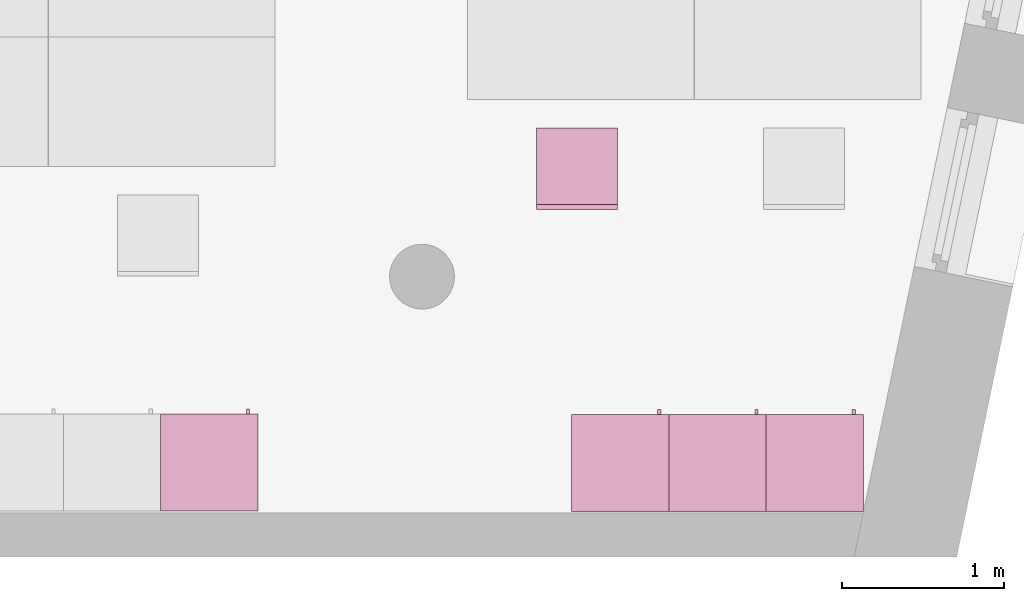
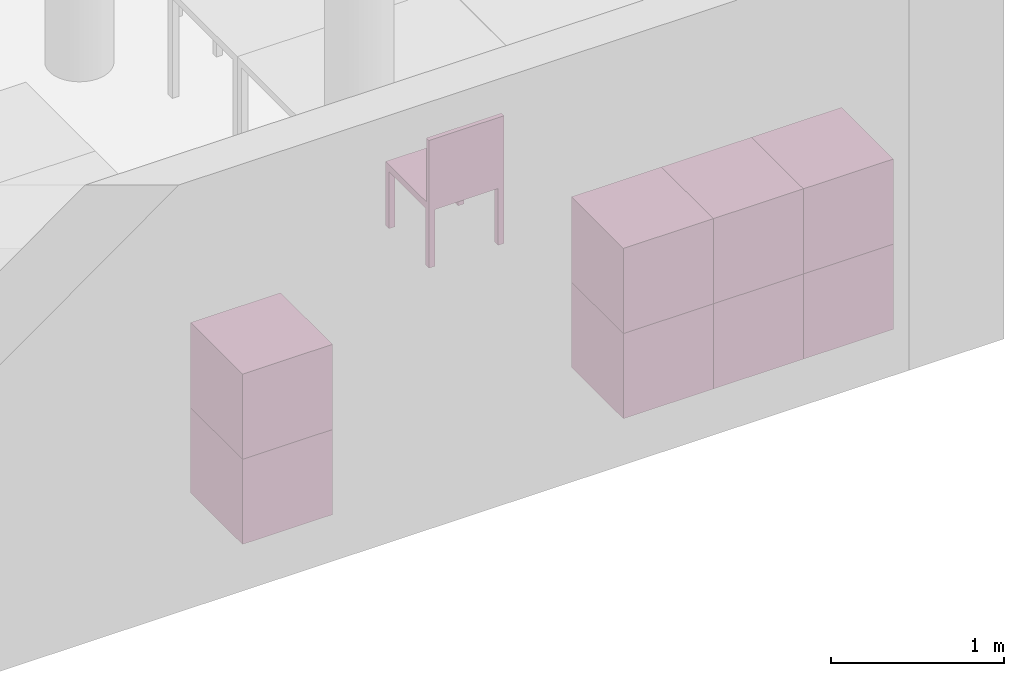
"""IFC4 building model written with IfcOpenShell, lengths in metres."""

from ifc_helpers import new_model, entity, si_unit, converted_unit, derived_unit, frame, origin, place, context, subcontext, project, spatial, faceted_brep, element, save


model = new_model("IFC4")

# Units and contexts
model_context = context("Model", 3, precision=1e-05, world=origin())
body_context = subcontext(model_context, "Body", "Model", "MODEL_VIEW")
ifc_project = project(units=[si_unit("LENGTHUNIT", "METRE"), si_unit("AREAUNIT", "SQUARE_METRE"), si_unit("VOLUMEUNIT", "CUBIC_METRE"), si_unit("MASSUNIT", "GRAM", prefix="KILO"), converted_unit("PLANEANGLEUNIT", "DEGREE", entity("IfcPlaneAngleMeasure", 0.0174532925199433), si_unit("PLANEANGLEUNIT", "RADIAN"), dimensions=[0, 0, 0, 0, 0, 0, 0]), derived_unit("THERMALTRANSMITTANCEUNIT", [(si_unit("POWERUNIT", "WATT"), 1), (si_unit("THERMODYNAMICTEMPERATUREUNIT", "KELVIN"), -1), (si_unit("LENGTHUNIT", "METRE"), -2)]), derived_unit("VOLUMETRICFLOWRATEUNIT", [(si_unit("LENGTHUNIT", "METRE"), 3), (converted_unit("TIMEUNIT", "hour", entity("IfcTimeMeasure", 3600.0), si_unit("TIMEUNIT", "SECOND"), dimensions=[0, 0, 1, 0, 0, 0, 0]), -1), (si_unit("LENGTHUNIT", "METRE"), -1)])], contexts=[model_context])

# Building, storeys
building_placement = place(None, origin())
building = spatial("IfcBuilding", under=ifc_project, at=building_placement, Name="HABITATGE PLURIFAMILIAR", CompositionType="ELEMENT")
storey_1_placement = place(building_placement, frame((0.0, 0.0, 18.29)))
storey_1 = spatial("IfcBuildingStorey", under=building, at=storey_1_placement, Name="PLANTA CINQUENA", CompositionType="ELEMENT", Elevation=18.29)
storey_2_placement = place(storey_1_placement, frame((0.0, 0.0, 15.28)))
storey_2 = spatial("IfcBuildingStorey", under=storey_1, at=storey_2_placement, Name="NOU", CompositionType="PARTIAL")

# Furniture
furniture_1_placement = place(storey_2_placement, frame((419.379266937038, 13.1230771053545, -15.2800000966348)))
element("IfcFurniture", 1, at=furniture_1_placement, inside=storey_2, Name="Armai 60x60x60_P5", context=body_context, shape_type="Brep", body=[
    faceted_brep([(0.600000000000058, 0.6, 0.02), (0.0, 0.6, 0.02), (0.0, 0.6, 0.0), (0.600000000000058, 0.6, 0.0), (0.0, 0.0, 0.02), (0.0, 0.0, 0.0), (0.600000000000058, 0.0, 0.02), (0.600000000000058, 0.0, 0.0)], [[[0, 1, 2, 3]], [[1, 4, 5, 2]], [[4, 6, 7, 5]], [[6, 0, 3, 7]], [[0, 6, 4, 1]], [[3, 2, 5, 7]]], orient=[[False], [False], [False], [False], [False], [False]]),
    faceted_brep([(0.02, 0.0, 0.58), (0.02, 0.0, 0.02), (0.02, 0.0200000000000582, 0.02), (0.02, 0.0200000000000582, 0.58), (0.58, 0.0, 0.02), (0.58, 0.0200000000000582, 0.02), (0.58, 0.0, 0.58), (0.58, 0.0200000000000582, 0.58)], [[[0, 1, 2, 3]], [[1, 4, 5, 2]], [[4, 6, 7, 5]], [[6, 0, 3, 7]], [[0, 6, 4, 1]], [[3, 2, 5, 7]]], orient=[[False], [False], [False], [False], [False], [False]]),
    faceted_brep([(0.58, 0.6, 0.58), (0.58, 0.6, 0.02), (0.6, 0.6, 0.02), (0.6, 0.6, 0.58), (0.58, 0.0, 0.02), (0.6, 0.0, 0.02), (0.58, 0.0, 0.58), (0.6, 0.0, 0.58)], [[[0, 1, 2, 3]], [[1, 4, 5, 2]], [[4, 6, 7, 5]], [[6, 0, 3, 7]], [[0, 6, 4, 1]], [[3, 2, 5, 7]]], orient=[[False], [False], [False], [False], [False], [False]]),
    faceted_brep([(0.600000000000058, 0.58, 0.58), (0.600000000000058, 0.58, 0.02), (0.600000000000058, 0.6, 0.02), (0.600000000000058, 0.6, 0.58), (0.580000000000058, 0.58, 0.02), (0.580000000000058, 0.6, 0.02), (0.580000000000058, 0.58, 0.58), (0.580000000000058, 0.6, 0.58)], [[[0, 1, 2, 3]], [[1, 4, 5, 2]], [[4, 6, 7, 5]], [[6, 0, 3, 7]], [[0, 6, 4, 1]], [[3, 2, 5, 7]]], orient=[[False], [False], [False], [False], [False], [False]]),
    faceted_brep([(0.0, 0.6, 0.58), (0.0, 0.6, 0.02), (0.0200000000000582, 0.6, 0.02), (0.0200000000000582, 0.6, 0.58), (0.0, 0.0, 0.02), (0.0200000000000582, 0.0, 0.02), (0.0, 0.0, 0.58), (0.0200000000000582, 0.0, 0.58)], [[[0, 1, 2, 3]], [[1, 4, 5, 2]], [[4, 6, 7, 5]], [[6, 0, 3, 7]], [[0, 6, 4, 1]], [[3, 2, 5, 7]]], orient=[[False], [False], [False], [False], [False], [False]]),
    faceted_brep([(0.6, 0.600000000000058, 0.6), (0.0, 0.600000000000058, 0.6), (0.0, 0.600000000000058, 0.58), (0.6, 0.600000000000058, 0.58), (0.0, 0.0, 0.6), (0.0, 0.0, 0.58), (0.6, 0.0, 0.6), (0.6, 0.0, 0.58)], [[[0, 1, 2, 3]], [[1, 4, 5, 2]], [[4, 6, 7, 5]], [[6, 0, 3, 7]], [[0, 6, 4, 1]], [[3, 2, 5, 7]]], orient=[[False], [False], [False], [False], [False], [False]]),
    faceted_brep([(0.02, 0.580000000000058, 0.58), (0.02, 0.580000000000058, 0.02), (0.02, 0.600000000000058, 0.02), (0.02, 0.600000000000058, 0.58), (0.580000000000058, 0.580000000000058, 0.02), (0.580000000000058, 0.600000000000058, 0.02), (0.580000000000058, 0.580000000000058, 0.58), (0.580000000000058, 0.600000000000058, 0.58)], [[[0, 1, 2, 3]], [[1, 4, 5, 2]], [[4, 6, 7, 5]], [[6, 0, 3, 7]], [[0, 6, 4, 1]], [[3, 2, 5, 7]]], orient=[[False], [False], [False], [False], [False], [False]]),
    faceted_brep([(0.53, 0.600000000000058, 0.358064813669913), (0.53, 0.600000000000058, 0.258064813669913), (0.53, 0.630000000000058, 0.258064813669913), (0.53, 0.630000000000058, 0.358064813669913), (0.55, 0.600000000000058, 0.258064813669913), (0.55, 0.630000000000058, 0.258064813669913), (0.55, 0.600000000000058, 0.358064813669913), (0.55, 0.630000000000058, 0.358064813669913)], [[[0, 1, 2, 3]], [[1, 4, 5, 2]], [[4, 6, 7, 5]], [[6, 0, 3, 7]], [[0, 6, 4, 1]], [[3, 2, 5, 7]]], orient=[[False], [False], [False], [False], [False], [False]]),
])
furniture_2_placement = place(storey_2_placement, frame((422.515270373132, 13.1194598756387, -15.2800000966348)))
element("IfcFurniture", 2, at=furniture_2_placement, inside=storey_2, Name="Armai 60x60x60_P5", context=body_context, shape_type="Brep", body=[
    faceted_brep([(0.600000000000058, 0.6, 0.02), (0.0, 0.6, 0.02), (0.0, 0.6, 0.0), (0.600000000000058, 0.6, 0.0), (0.0, 0.0, 0.02), (0.0, 0.0, 0.0), (0.600000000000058, 0.0, 0.02), (0.600000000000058, 0.0, 0.0)], [[[0, 1, 2, 3]], [[1, 4, 5, 2]], [[4, 6, 7, 5]], [[6, 0, 3, 7]], [[0, 6, 4, 1]], [[3, 2, 5, 7]]], orient=[[False], [False], [False], [False], [False], [False]]),
    faceted_brep([(0.02, 0.0, 0.58), (0.02, 0.0, 0.02), (0.02, 0.0200000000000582, 0.02), (0.02, 0.0200000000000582, 0.58), (0.58, 0.0, 0.02), (0.58, 0.0200000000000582, 0.02), (0.58, 0.0, 0.58), (0.58, 0.0200000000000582, 0.58)], [[[0, 1, 2, 3]], [[1, 4, 5, 2]], [[4, 6, 7, 5]], [[6, 0, 3, 7]], [[0, 6, 4, 1]], [[3, 2, 5, 7]]], orient=[[False], [False], [False], [False], [False], [False]]),
    faceted_brep([(0.58, 0.6, 0.58), (0.58, 0.6, 0.02), (0.6, 0.6, 0.02), (0.6, 0.6, 0.58), (0.58, 0.0, 0.02), (0.6, 0.0, 0.02), (0.58, 0.0, 0.58), (0.6, 0.0, 0.58)], [[[0, 1, 2, 3]], [[1, 4, 5, 2]], [[4, 6, 7, 5]], [[6, 0, 3, 7]], [[0, 6, 4, 1]], [[3, 2, 5, 7]]], orient=[[False], [False], [False], [False], [False], [False]]),
    faceted_brep([(0.600000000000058, 0.58, 0.58), (0.600000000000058, 0.58, 0.02), (0.600000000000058, 0.6, 0.02), (0.600000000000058, 0.6, 0.58), (0.580000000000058, 0.58, 0.02), (0.580000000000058, 0.6, 0.02), (0.580000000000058, 0.58, 0.58), (0.580000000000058, 0.6, 0.58)], [[[0, 1, 2, 3]], [[1, 4, 5, 2]], [[4, 6, 7, 5]], [[6, 0, 3, 7]], [[0, 6, 4, 1]], [[3, 2, 5, 7]]], orient=[[False], [False], [False], [False], [False], [False]]),
    faceted_brep([(0.0, 0.6, 0.58), (0.0, 0.6, 0.02), (0.0200000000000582, 0.6, 0.02), (0.0200000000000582, 0.6, 0.58), (0.0, 0.0, 0.02), (0.0200000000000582, 0.0, 0.02), (0.0, 0.0, 0.58), (0.0200000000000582, 0.0, 0.58)], [[[0, 1, 2, 3]], [[1, 4, 5, 2]], [[4, 6, 7, 5]], [[6, 0, 3, 7]], [[0, 6, 4, 1]], [[3, 2, 5, 7]]], orient=[[False], [False], [False], [False], [False], [False]]),
    faceted_brep([(0.6, 0.600000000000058, 0.6), (0.0, 0.600000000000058, 0.6), (0.0, 0.600000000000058, 0.58), (0.6, 0.600000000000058, 0.58), (0.0, 0.0, 0.6), (0.0, 0.0, 0.58), (0.6, 0.0, 0.6), (0.6, 0.0, 0.58)], [[[0, 1, 2, 3]], [[1, 4, 5, 2]], [[4, 6, 7, 5]], [[6, 0, 3, 7]], [[0, 6, 4, 1]], [[3, 2, 5, 7]]], orient=[[False], [False], [False], [False], [False], [False]]),
    faceted_brep([(0.02, 0.580000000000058, 0.58), (0.02, 0.580000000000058, 0.02), (0.02, 0.600000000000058, 0.02), (0.02, 0.600000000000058, 0.58), (0.580000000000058, 0.580000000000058, 0.02), (0.580000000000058, 0.600000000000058, 0.02), (0.580000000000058, 0.580000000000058, 0.58), (0.580000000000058, 0.600000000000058, 0.58)], [[[0, 1, 2, 3]], [[1, 4, 5, 2]], [[4, 6, 7, 5]], [[6, 0, 3, 7]], [[0, 6, 4, 1]], [[3, 2, 5, 7]]], orient=[[False], [False], [False], [False], [False], [False]]),
    faceted_brep([(0.53, 0.600000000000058, 0.358064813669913), (0.53, 0.600000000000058, 0.258064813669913), (0.53, 0.630000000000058, 0.258064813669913), (0.53, 0.630000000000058, 0.358064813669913), (0.55, 0.600000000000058, 0.258064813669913), (0.55, 0.630000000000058, 0.258064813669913), (0.55, 0.600000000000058, 0.358064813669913), (0.55, 0.630000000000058, 0.358064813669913)], [[[0, 1, 2, 3]], [[1, 4, 5, 2]], [[4, 6, 7, 5]], [[6, 0, 3, 7]], [[0, 6, 4, 1]], [[3, 2, 5, 7]]], orient=[[False], [False], [False], [False], [False], [False]]),
])
furniture_3_placement = place(storey_2_placement, frame((421.915270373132, 13.1194598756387, -15.2800000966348)))
element("IfcFurniture", 3, at=furniture_3_placement, inside=storey_2, Name="Armai 60x60x60_P5", context=body_context, shape_type="Brep", body=[
    faceted_brep([(0.600000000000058, 0.6, 0.02), (0.0, 0.6, 0.02), (0.0, 0.6, 0.0), (0.600000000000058, 0.6, 0.0), (0.0, 0.0, 0.02), (0.0, 0.0, 0.0), (0.600000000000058, 0.0, 0.02), (0.600000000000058, 0.0, 0.0)], [[[0, 1, 2, 3]], [[1, 4, 5, 2]], [[4, 6, 7, 5]], [[6, 0, 3, 7]], [[0, 6, 4, 1]], [[3, 2, 5, 7]]], orient=[[False], [False], [False], [False], [False], [False]]),
    faceted_brep([(0.02, 0.0, 0.58), (0.02, 0.0, 0.02), (0.02, 0.0200000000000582, 0.02), (0.02, 0.0200000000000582, 0.58), (0.58, 0.0, 0.02), (0.58, 0.0200000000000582, 0.02), (0.58, 0.0, 0.58), (0.58, 0.0200000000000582, 0.58)], [[[0, 1, 2, 3]], [[1, 4, 5, 2]], [[4, 6, 7, 5]], [[6, 0, 3, 7]], [[0, 6, 4, 1]], [[3, 2, 5, 7]]], orient=[[False], [False], [False], [False], [False], [False]]),
    faceted_brep([(0.58, 0.6, 0.58), (0.58, 0.6, 0.02), (0.6, 0.6, 0.02), (0.6, 0.6, 0.58), (0.58, 0.0, 0.02), (0.6, 0.0, 0.02), (0.58, 0.0, 0.58), (0.6, 0.0, 0.58)], [[[0, 1, 2, 3]], [[1, 4, 5, 2]], [[4, 6, 7, 5]], [[6, 0, 3, 7]], [[0, 6, 4, 1]], [[3, 2, 5, 7]]], orient=[[False], [False], [False], [False], [False], [False]]),
    faceted_brep([(0.600000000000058, 0.58, 0.58), (0.600000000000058, 0.58, 0.02), (0.600000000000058, 0.6, 0.02), (0.600000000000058, 0.6, 0.58), (0.580000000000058, 0.58, 0.02), (0.580000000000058, 0.6, 0.02), (0.580000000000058, 0.58, 0.58), (0.580000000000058, 0.6, 0.58)], [[[0, 1, 2, 3]], [[1, 4, 5, 2]], [[4, 6, 7, 5]], [[6, 0, 3, 7]], [[0, 6, 4, 1]], [[3, 2, 5, 7]]], orient=[[False], [False], [False], [False], [False], [False]]),
    faceted_brep([(0.0, 0.6, 0.58), (0.0, 0.6, 0.02), (0.0200000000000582, 0.6, 0.02), (0.0200000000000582, 0.6, 0.58), (0.0, 0.0, 0.02), (0.0200000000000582, 0.0, 0.02), (0.0, 0.0, 0.58), (0.0200000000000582, 0.0, 0.58)], [[[0, 1, 2, 3]], [[1, 4, 5, 2]], [[4, 6, 7, 5]], [[6, 0, 3, 7]], [[0, 6, 4, 1]], [[3, 2, 5, 7]]], orient=[[False], [False], [False], [False], [False], [False]]),
    faceted_brep([(0.6, 0.600000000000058, 0.6), (0.0, 0.600000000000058, 0.6), (0.0, 0.600000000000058, 0.58), (0.6, 0.600000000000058, 0.58), (0.0, 0.0, 0.6), (0.0, 0.0, 0.58), (0.6, 0.0, 0.6), (0.6, 0.0, 0.58)], [[[0, 1, 2, 3]], [[1, 4, 5, 2]], [[4, 6, 7, 5]], [[6, 0, 3, 7]], [[0, 6, 4, 1]], [[3, 2, 5, 7]]], orient=[[False], [False], [False], [False], [False], [False]]),
    faceted_brep([(0.02, 0.580000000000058, 0.58), (0.02, 0.580000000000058, 0.02), (0.02, 0.600000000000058, 0.02), (0.02, 0.600000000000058, 0.58), (0.580000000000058, 0.580000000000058, 0.02), (0.580000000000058, 0.600000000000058, 0.02), (0.580000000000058, 0.580000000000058, 0.58), (0.580000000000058, 0.600000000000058, 0.58)], [[[0, 1, 2, 3]], [[1, 4, 5, 2]], [[4, 6, 7, 5]], [[6, 0, 3, 7]], [[0, 6, 4, 1]], [[3, 2, 5, 7]]], orient=[[False], [False], [False], [False], [False], [False]]),
    faceted_brep([(0.53, 0.600000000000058, 0.358064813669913), (0.53, 0.600000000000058, 0.258064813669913), (0.53, 0.630000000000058, 0.258064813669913), (0.53, 0.630000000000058, 0.358064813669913), (0.55, 0.600000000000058, 0.258064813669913), (0.55, 0.630000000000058, 0.258064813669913), (0.55, 0.600000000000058, 0.358064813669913), (0.55, 0.630000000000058, 0.358064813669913)], [[[0, 1, 2, 3]], [[1, 4, 5, 2]], [[4, 6, 7, 5]], [[6, 0, 3, 7]], [[0, 6, 4, 1]], [[3, 2, 5, 7]]], orient=[[False], [False], [False], [False], [False], [False]]),
])
furniture_4_placement = place(storey_2_placement, frame((423.115270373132, 13.1194598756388, -15.2800000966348)))
element("IfcFurniture", 4, at=furniture_4_placement, inside=storey_2, Name="Armai 60x60x60_P5", context=body_context, shape_type="Brep", body=[
    faceted_brep([(0.600000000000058, 0.6, 0.02), (0.0, 0.6, 0.02), (0.0, 0.6, 0.0), (0.600000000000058, 0.6, 0.0), (0.0, 0.0, 0.02), (0.0, 0.0, 0.0), (0.600000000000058, 0.0, 0.02), (0.600000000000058, 0.0, 0.0)], [[[0, 1, 2, 3]], [[1, 4, 5, 2]], [[4, 6, 7, 5]], [[6, 0, 3, 7]], [[0, 6, 4, 1]], [[3, 2, 5, 7]]], orient=[[False], [False], [False], [False], [False], [False]]),
    faceted_brep([(0.02, 0.0, 0.58), (0.02, 0.0, 0.02), (0.02, 0.0200000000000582, 0.02), (0.02, 0.0200000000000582, 0.58), (0.58, 0.0, 0.02), (0.58, 0.0200000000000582, 0.02), (0.58, 0.0, 0.58), (0.58, 0.0200000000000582, 0.58)], [[[0, 1, 2, 3]], [[1, 4, 5, 2]], [[4, 6, 7, 5]], [[6, 0, 3, 7]], [[0, 6, 4, 1]], [[3, 2, 5, 7]]], orient=[[False], [False], [False], [False], [False], [False]]),
    faceted_brep([(0.58, 0.6, 0.58), (0.58, 0.6, 0.02), (0.6, 0.6, 0.02), (0.6, 0.6, 0.58), (0.58, 0.0, 0.02), (0.6, 0.0, 0.02), (0.58, 0.0, 0.58), (0.6, 0.0, 0.58)], [[[0, 1, 2, 3]], [[1, 4, 5, 2]], [[4, 6, 7, 5]], [[6, 0, 3, 7]], [[0, 6, 4, 1]], [[3, 2, 5, 7]]], orient=[[False], [False], [False], [False], [False], [False]]),
    faceted_brep([(0.600000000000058, 0.58, 0.58), (0.600000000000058, 0.58, 0.02), (0.600000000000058, 0.6, 0.02), (0.600000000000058, 0.6, 0.58), (0.580000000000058, 0.58, 0.02), (0.580000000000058, 0.6, 0.02), (0.580000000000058, 0.58, 0.58), (0.580000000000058, 0.6, 0.58)], [[[0, 1, 2, 3]], [[1, 4, 5, 2]], [[4, 6, 7, 5]], [[6, 0, 3, 7]], [[0, 6, 4, 1]], [[3, 2, 5, 7]]], orient=[[False], [False], [False], [False], [False], [False]]),
    faceted_brep([(0.0, 0.6, 0.58), (0.0, 0.6, 0.02), (0.0200000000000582, 0.6, 0.02), (0.0200000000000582, 0.6, 0.58), (0.0, 0.0, 0.02), (0.0200000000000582, 0.0, 0.02), (0.0, 0.0, 0.58), (0.0200000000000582, 0.0, 0.58)], [[[0, 1, 2, 3]], [[1, 4, 5, 2]], [[4, 6, 7, 5]], [[6, 0, 3, 7]], [[0, 6, 4, 1]], [[3, 2, 5, 7]]], orient=[[False], [False], [False], [False], [False], [False]]),
    faceted_brep([(0.6, 0.600000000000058, 0.6), (0.0, 0.600000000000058, 0.6), (0.0, 0.600000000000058, 0.58), (0.6, 0.600000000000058, 0.58), (0.0, 0.0, 0.6), (0.0, 0.0, 0.58), (0.6, 0.0, 0.6), (0.6, 0.0, 0.58)], [[[0, 1, 2, 3]], [[1, 4, 5, 2]], [[4, 6, 7, 5]], [[6, 0, 3, 7]], [[0, 6, 4, 1]], [[3, 2, 5, 7]]], orient=[[False], [False], [False], [False], [False], [False]]),
    faceted_brep([(0.02, 0.580000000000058, 0.58), (0.02, 0.580000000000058, 0.02), (0.02, 0.600000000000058, 0.02), (0.02, 0.600000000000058, 0.58), (0.580000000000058, 0.580000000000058, 0.02), (0.580000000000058, 0.600000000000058, 0.02), (0.580000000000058, 0.580000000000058, 0.58), (0.580000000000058, 0.600000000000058, 0.58)], [[[0, 1, 2, 3]], [[1, 4, 5, 2]], [[4, 6, 7, 5]], [[6, 0, 3, 7]], [[0, 6, 4, 1]], [[3, 2, 5, 7]]], orient=[[False], [False], [False], [False], [False], [False]]),
    faceted_brep([(0.53, 0.600000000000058, 0.358064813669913), (0.53, 0.600000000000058, 0.258064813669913), (0.53, 0.630000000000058, 0.258064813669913), (0.53, 0.630000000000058, 0.358064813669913), (0.55, 0.600000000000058, 0.258064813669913), (0.55, 0.630000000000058, 0.258064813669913), (0.55, 0.600000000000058, 0.358064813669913), (0.55, 0.630000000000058, 0.358064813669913)], [[[0, 1, 2, 3]], [[1, 4, 5, 2]], [[4, 6, 7, 5]], [[6, 0, 3, 7]], [[0, 6, 4, 1]], [[3, 2, 5, 7]]], orient=[[False], [False], [False], [False], [False], [False]]),
])
furniture_5_placement = place(storey_2_placement, frame((419.379266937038, 13.1230771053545, -14.6800000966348)))
element("IfcFurniture", 5, at=furniture_5_placement, inside=storey_2, Name="Armai 60x60x60_P5", context=body_context, shape_type="Brep", body=[
    faceted_brep([(0.600000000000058, 0.6, 0.02), (0.0, 0.6, 0.02), (0.0, 0.6, 0.0), (0.600000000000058, 0.6, 0.0), (0.0, 0.0, 0.02), (0.0, 0.0, 0.0), (0.600000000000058, 0.0, 0.02), (0.600000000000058, 0.0, 0.0)], [[[0, 1, 2, 3]], [[1, 4, 5, 2]], [[4, 6, 7, 5]], [[6, 0, 3, 7]], [[0, 6, 4, 1]], [[3, 2, 5, 7]]], orient=[[False], [False], [False], [False], [False], [False]]),
    faceted_brep([(0.02, 0.0, 0.58), (0.02, 0.0, 0.02), (0.02, 0.0200000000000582, 0.02), (0.02, 0.0200000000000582, 0.58), (0.58, 0.0, 0.02), (0.58, 0.0200000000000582, 0.02), (0.58, 0.0, 0.58), (0.58, 0.0200000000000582, 0.58)], [[[0, 1, 2, 3]], [[1, 4, 5, 2]], [[4, 6, 7, 5]], [[6, 0, 3, 7]], [[0, 6, 4, 1]], [[3, 2, 5, 7]]], orient=[[False], [False], [False], [False], [False], [False]]),
    faceted_brep([(0.58, 0.6, 0.58), (0.58, 0.6, 0.02), (0.6, 0.6, 0.02), (0.6, 0.6, 0.58), (0.58, 0.0, 0.02), (0.6, 0.0, 0.02), (0.58, 0.0, 0.58), (0.6, 0.0, 0.58)], [[[0, 1, 2, 3]], [[1, 4, 5, 2]], [[4, 6, 7, 5]], [[6, 0, 3, 7]], [[0, 6, 4, 1]], [[3, 2, 5, 7]]], orient=[[False], [False], [False], [False], [False], [False]]),
    faceted_brep([(0.600000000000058, 0.58, 0.58), (0.600000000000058, 0.58, 0.02), (0.600000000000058, 0.6, 0.02), (0.600000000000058, 0.6, 0.58), (0.580000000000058, 0.58, 0.02), (0.580000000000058, 0.6, 0.02), (0.580000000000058, 0.58, 0.58), (0.580000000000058, 0.6, 0.58)], [[[0, 1, 2, 3]], [[1, 4, 5, 2]], [[4, 6, 7, 5]], [[6, 0, 3, 7]], [[0, 6, 4, 1]], [[3, 2, 5, 7]]], orient=[[False], [False], [False], [False], [False], [False]]),
    faceted_brep([(0.0, 0.6, 0.58), (0.0, 0.6, 0.02), (0.0200000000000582, 0.6, 0.02), (0.0200000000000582, 0.6, 0.58), (0.0, 0.0, 0.02), (0.0200000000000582, 0.0, 0.02), (0.0, 0.0, 0.58), (0.0200000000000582, 0.0, 0.58)], [[[0, 1, 2, 3]], [[1, 4, 5, 2]], [[4, 6, 7, 5]], [[6, 0, 3, 7]], [[0, 6, 4, 1]], [[3, 2, 5, 7]]], orient=[[False], [False], [False], [False], [False], [False]]),
    faceted_brep([(0.6, 0.600000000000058, 0.6), (0.0, 0.600000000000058, 0.6), (0.0, 0.600000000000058, 0.58), (0.6, 0.600000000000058, 0.58), (0.0, 0.0, 0.6), (0.0, 0.0, 0.58), (0.6, 0.0, 0.6), (0.6, 0.0, 0.58)], [[[0, 1, 2, 3]], [[1, 4, 5, 2]], [[4, 6, 7, 5]], [[6, 0, 3, 7]], [[0, 6, 4, 1]], [[3, 2, 5, 7]]], orient=[[False], [False], [False], [False], [False], [False]]),
    faceted_brep([(0.02, 0.580000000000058, 0.58), (0.02, 0.580000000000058, 0.02), (0.02, 0.600000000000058, 0.02), (0.02, 0.600000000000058, 0.58), (0.580000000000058, 0.580000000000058, 0.02), (0.580000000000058, 0.600000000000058, 0.02), (0.580000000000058, 0.580000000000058, 0.58), (0.580000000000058, 0.600000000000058, 0.58)], [[[0, 1, 2, 3]], [[1, 4, 5, 2]], [[4, 6, 7, 5]], [[6, 0, 3, 7]], [[0, 6, 4, 1]], [[3, 2, 5, 7]]], orient=[[False], [False], [False], [False], [False], [False]]),
    faceted_brep([(0.53, 0.600000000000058, 0.358064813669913), (0.53, 0.600000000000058, 0.258064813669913), (0.53, 0.630000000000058, 0.258064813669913), (0.53, 0.630000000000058, 0.358064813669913), (0.55, 0.600000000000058, 0.258064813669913), (0.55, 0.630000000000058, 0.258064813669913), (0.55, 0.600000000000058, 0.358064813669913), (0.55, 0.630000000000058, 0.358064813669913)], [[[0, 1, 2, 3]], [[1, 4, 5, 2]], [[4, 6, 7, 5]], [[6, 0, 3, 7]], [[0, 6, 4, 1]], [[3, 2, 5, 7]]], orient=[[False], [False], [False], [False], [False], [False]]),
])
furniture_6_placement = place(storey_2_placement, frame((422.515270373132, 13.1194598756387, -14.6800000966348)))
element("IfcFurniture", 6, at=furniture_6_placement, inside=storey_2, Name="Armai 60x60x60_P5", context=body_context, shape_type="Brep", body=[
    faceted_brep([(0.600000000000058, 0.6, 0.02), (0.0, 0.6, 0.02), (0.0, 0.6, 0.0), (0.600000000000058, 0.6, 0.0), (0.0, 0.0, 0.02), (0.0, 0.0, 0.0), (0.600000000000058, 0.0, 0.02), (0.600000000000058, 0.0, 0.0)], [[[0, 1, 2, 3]], [[1, 4, 5, 2]], [[4, 6, 7, 5]], [[6, 0, 3, 7]], [[0, 6, 4, 1]], [[3, 2, 5, 7]]], orient=[[False], [False], [False], [False], [False], [False]]),
    faceted_brep([(0.02, 0.0, 0.58), (0.02, 0.0, 0.02), (0.02, 0.0200000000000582, 0.02), (0.02, 0.0200000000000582, 0.58), (0.58, 0.0, 0.02), (0.58, 0.0200000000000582, 0.02), (0.58, 0.0, 0.58), (0.58, 0.0200000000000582, 0.58)], [[[0, 1, 2, 3]], [[1, 4, 5, 2]], [[4, 6, 7, 5]], [[6, 0, 3, 7]], [[0, 6, 4, 1]], [[3, 2, 5, 7]]], orient=[[False], [False], [False], [False], [False], [False]]),
    faceted_brep([(0.58, 0.6, 0.58), (0.58, 0.6, 0.02), (0.6, 0.6, 0.02), (0.6, 0.6, 0.58), (0.58, 0.0, 0.02), (0.6, 0.0, 0.02), (0.58, 0.0, 0.58), (0.6, 0.0, 0.58)], [[[0, 1, 2, 3]], [[1, 4, 5, 2]], [[4, 6, 7, 5]], [[6, 0, 3, 7]], [[0, 6, 4, 1]], [[3, 2, 5, 7]]], orient=[[False], [False], [False], [False], [False], [False]]),
    faceted_brep([(0.600000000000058, 0.58, 0.58), (0.600000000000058, 0.58, 0.02), (0.600000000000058, 0.6, 0.02), (0.600000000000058, 0.6, 0.58), (0.580000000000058, 0.58, 0.02), (0.580000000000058, 0.6, 0.02), (0.580000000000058, 0.58, 0.58), (0.580000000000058, 0.6, 0.58)], [[[0, 1, 2, 3]], [[1, 4, 5, 2]], [[4, 6, 7, 5]], [[6, 0, 3, 7]], [[0, 6, 4, 1]], [[3, 2, 5, 7]]], orient=[[False], [False], [False], [False], [False], [False]]),
    faceted_brep([(0.0, 0.6, 0.58), (0.0, 0.6, 0.02), (0.0200000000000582, 0.6, 0.02), (0.0200000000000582, 0.6, 0.58), (0.0, 0.0, 0.02), (0.0200000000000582, 0.0, 0.02), (0.0, 0.0, 0.58), (0.0200000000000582, 0.0, 0.58)], [[[0, 1, 2, 3]], [[1, 4, 5, 2]], [[4, 6, 7, 5]], [[6, 0, 3, 7]], [[0, 6, 4, 1]], [[3, 2, 5, 7]]], orient=[[False], [False], [False], [False], [False], [False]]),
    faceted_brep([(0.6, 0.600000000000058, 0.6), (0.0, 0.600000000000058, 0.6), (0.0, 0.600000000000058, 0.58), (0.6, 0.600000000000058, 0.58), (0.0, 0.0, 0.6), (0.0, 0.0, 0.58), (0.6, 0.0, 0.6), (0.6, 0.0, 0.58)], [[[0, 1, 2, 3]], [[1, 4, 5, 2]], [[4, 6, 7, 5]], [[6, 0, 3, 7]], [[0, 6, 4, 1]], [[3, 2, 5, 7]]], orient=[[False], [False], [False], [False], [False], [False]]),
    faceted_brep([(0.02, 0.580000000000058, 0.58), (0.02, 0.580000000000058, 0.02), (0.02, 0.600000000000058, 0.02), (0.02, 0.600000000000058, 0.58), (0.580000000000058, 0.580000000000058, 0.02), (0.580000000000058, 0.600000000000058, 0.02), (0.580000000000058, 0.580000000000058, 0.58), (0.580000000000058, 0.600000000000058, 0.58)], [[[0, 1, 2, 3]], [[1, 4, 5, 2]], [[4, 6, 7, 5]], [[6, 0, 3, 7]], [[0, 6, 4, 1]], [[3, 2, 5, 7]]], orient=[[False], [False], [False], [False], [False], [False]]),
    faceted_brep([(0.53, 0.600000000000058, 0.358064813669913), (0.53, 0.600000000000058, 0.258064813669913), (0.53, 0.630000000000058, 0.258064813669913), (0.53, 0.630000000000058, 0.358064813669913), (0.55, 0.600000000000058, 0.258064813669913), (0.55, 0.630000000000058, 0.258064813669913), (0.55, 0.600000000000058, 0.358064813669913), (0.55, 0.630000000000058, 0.358064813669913)], [[[0, 1, 2, 3]], [[1, 4, 5, 2]], [[4, 6, 7, 5]], [[6, 0, 3, 7]], [[0, 6, 4, 1]], [[3, 2, 5, 7]]], orient=[[False], [False], [False], [False], [False], [False]]),
])
furniture_7_placement = place(storey_2_placement, frame((421.915270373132, 13.1194598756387, -14.6800000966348)))
element("IfcFurniture", 7, at=furniture_7_placement, inside=storey_2, Name="Armai 60x60x60_P5", context=body_context, shape_type="Brep", body=[
    faceted_brep([(0.600000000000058, 0.6, 0.02), (0.0, 0.6, 0.02), (0.0, 0.6, 0.0), (0.600000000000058, 0.6, 0.0), (0.0, 0.0, 0.02), (0.0, 0.0, 0.0), (0.600000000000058, 0.0, 0.02), (0.600000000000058, 0.0, 0.0)], [[[0, 1, 2, 3]], [[1, 4, 5, 2]], [[4, 6, 7, 5]], [[6, 0, 3, 7]], [[0, 6, 4, 1]], [[3, 2, 5, 7]]], orient=[[False], [False], [False], [False], [False], [False]]),
    faceted_brep([(0.02, 0.0, 0.58), (0.02, 0.0, 0.02), (0.02, 0.0200000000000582, 0.02), (0.02, 0.0200000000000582, 0.58), (0.58, 0.0, 0.02), (0.58, 0.0200000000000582, 0.02), (0.58, 0.0, 0.58), (0.58, 0.0200000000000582, 0.58)], [[[0, 1, 2, 3]], [[1, 4, 5, 2]], [[4, 6, 7, 5]], [[6, 0, 3, 7]], [[0, 6, 4, 1]], [[3, 2, 5, 7]]], orient=[[False], [False], [False], [False], [False], [False]]),
    faceted_brep([(0.58, 0.6, 0.58), (0.58, 0.6, 0.02), (0.6, 0.6, 0.02), (0.6, 0.6, 0.58), (0.58, 0.0, 0.02), (0.6, 0.0, 0.02), (0.58, 0.0, 0.58), (0.6, 0.0, 0.58)], [[[0, 1, 2, 3]], [[1, 4, 5, 2]], [[4, 6, 7, 5]], [[6, 0, 3, 7]], [[0, 6, 4, 1]], [[3, 2, 5, 7]]], orient=[[False], [False], [False], [False], [False], [False]]),
    faceted_brep([(0.600000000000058, 0.58, 0.58), (0.600000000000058, 0.58, 0.02), (0.600000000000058, 0.6, 0.02), (0.600000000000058, 0.6, 0.58), (0.580000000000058, 0.58, 0.02), (0.580000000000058, 0.6, 0.02), (0.580000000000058, 0.58, 0.58), (0.580000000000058, 0.6, 0.58)], [[[0, 1, 2, 3]], [[1, 4, 5, 2]], [[4, 6, 7, 5]], [[6, 0, 3, 7]], [[0, 6, 4, 1]], [[3, 2, 5, 7]]], orient=[[False], [False], [False], [False], [False], [False]]),
    faceted_brep([(0.0, 0.6, 0.58), (0.0, 0.6, 0.02), (0.0200000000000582, 0.6, 0.02), (0.0200000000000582, 0.6, 0.58), (0.0, 0.0, 0.02), (0.0200000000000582, 0.0, 0.02), (0.0, 0.0, 0.58), (0.0200000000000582, 0.0, 0.58)], [[[0, 1, 2, 3]], [[1, 4, 5, 2]], [[4, 6, 7, 5]], [[6, 0, 3, 7]], [[0, 6, 4, 1]], [[3, 2, 5, 7]]], orient=[[False], [False], [False], [False], [False], [False]]),
    faceted_brep([(0.6, 0.600000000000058, 0.6), (0.0, 0.600000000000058, 0.6), (0.0, 0.600000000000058, 0.58), (0.6, 0.600000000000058, 0.58), (0.0, 0.0, 0.6), (0.0, 0.0, 0.58), (0.6, 0.0, 0.6), (0.6, 0.0, 0.58)], [[[0, 1, 2, 3]], [[1, 4, 5, 2]], [[4, 6, 7, 5]], [[6, 0, 3, 7]], [[0, 6, 4, 1]], [[3, 2, 5, 7]]], orient=[[False], [False], [False], [False], [False], [False]]),
    faceted_brep([(0.02, 0.580000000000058, 0.58), (0.02, 0.580000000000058, 0.02), (0.02, 0.600000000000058, 0.02), (0.02, 0.600000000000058, 0.58), (0.580000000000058, 0.580000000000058, 0.02), (0.580000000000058, 0.600000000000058, 0.02), (0.580000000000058, 0.580000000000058, 0.58), (0.580000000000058, 0.600000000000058, 0.58)], [[[0, 1, 2, 3]], [[1, 4, 5, 2]], [[4, 6, 7, 5]], [[6, 0, 3, 7]], [[0, 6, 4, 1]], [[3, 2, 5, 7]]], orient=[[False], [False], [False], [False], [False], [False]]),
    faceted_brep([(0.53, 0.600000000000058, 0.358064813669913), (0.53, 0.600000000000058, 0.258064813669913), (0.53, 0.630000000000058, 0.258064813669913), (0.53, 0.630000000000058, 0.358064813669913), (0.55, 0.600000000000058, 0.258064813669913), (0.55, 0.630000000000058, 0.258064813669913), (0.55, 0.600000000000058, 0.358064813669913), (0.55, 0.630000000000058, 0.358064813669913)], [[[0, 1, 2, 3]], [[1, 4, 5, 2]], [[4, 6, 7, 5]], [[6, 0, 3, 7]], [[0, 6, 4, 1]], [[3, 2, 5, 7]]], orient=[[False], [False], [False], [False], [False], [False]]),
])
furniture_8_placement = place(storey_2_placement, frame((423.115270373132, 13.1194598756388, -14.6800000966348)))
element("IfcFurniture", 8, at=furniture_8_placement, inside=storey_2, Name="Armai 60x60x60_P5", context=body_context, shape_type="Brep", body=[
    faceted_brep([(0.600000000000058, 0.6, 0.02), (0.0, 0.6, 0.02), (0.0, 0.6, 0.0), (0.600000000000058, 0.6, 0.0), (0.0, 0.0, 0.02), (0.0, 0.0, 0.0), (0.600000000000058, 0.0, 0.02), (0.600000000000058, 0.0, 0.0)], [[[0, 1, 2, 3]], [[1, 4, 5, 2]], [[4, 6, 7, 5]], [[6, 0, 3, 7]], [[0, 6, 4, 1]], [[3, 2, 5, 7]]], orient=[[False], [False], [False], [False], [False], [False]]),
    faceted_brep([(0.02, 0.0, 0.58), (0.02, 0.0, 0.02), (0.02, 0.0200000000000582, 0.02), (0.02, 0.0200000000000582, 0.58), (0.58, 0.0, 0.02), (0.58, 0.0200000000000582, 0.02), (0.58, 0.0, 0.58), (0.58, 0.0200000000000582, 0.58)], [[[0, 1, 2, 3]], [[1, 4, 5, 2]], [[4, 6, 7, 5]], [[6, 0, 3, 7]], [[0, 6, 4, 1]], [[3, 2, 5, 7]]], orient=[[False], [False], [False], [False], [False], [False]]),
    faceted_brep([(0.58, 0.6, 0.58), (0.58, 0.6, 0.02), (0.6, 0.6, 0.02), (0.6, 0.6, 0.58), (0.58, 0.0, 0.02), (0.6, 0.0, 0.02), (0.58, 0.0, 0.58), (0.6, 0.0, 0.58)], [[[0, 1, 2, 3]], [[1, 4, 5, 2]], [[4, 6, 7, 5]], [[6, 0, 3, 7]], [[0, 6, 4, 1]], [[3, 2, 5, 7]]], orient=[[False], [False], [False], [False], [False], [False]]),
    faceted_brep([(0.600000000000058, 0.58, 0.58), (0.600000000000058, 0.58, 0.02), (0.600000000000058, 0.6, 0.02), (0.600000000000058, 0.6, 0.58), (0.580000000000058, 0.58, 0.02), (0.580000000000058, 0.6, 0.02), (0.580000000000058, 0.58, 0.58), (0.580000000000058, 0.6, 0.58)], [[[0, 1, 2, 3]], [[1, 4, 5, 2]], [[4, 6, 7, 5]], [[6, 0, 3, 7]], [[0, 6, 4, 1]], [[3, 2, 5, 7]]], orient=[[False], [False], [False], [False], [False], [False]]),
    faceted_brep([(0.0, 0.6, 0.58), (0.0, 0.6, 0.02), (0.0200000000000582, 0.6, 0.02), (0.0200000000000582, 0.6, 0.58), (0.0, 0.0, 0.02), (0.0200000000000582, 0.0, 0.02), (0.0, 0.0, 0.58), (0.0200000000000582, 0.0, 0.58)], [[[0, 1, 2, 3]], [[1, 4, 5, 2]], [[4, 6, 7, 5]], [[6, 0, 3, 7]], [[0, 6, 4, 1]], [[3, 2, 5, 7]]], orient=[[False], [False], [False], [False], [False], [False]]),
    faceted_brep([(0.6, 0.600000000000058, 0.6), (0.0, 0.600000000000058, 0.6), (0.0, 0.600000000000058, 0.58), (0.6, 0.600000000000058, 0.58), (0.0, 0.0, 0.6), (0.0, 0.0, 0.58), (0.6, 0.0, 0.6), (0.6, 0.0, 0.58)], [[[0, 1, 2, 3]], [[1, 4, 5, 2]], [[4, 6, 7, 5]], [[6, 0, 3, 7]], [[0, 6, 4, 1]], [[3, 2, 5, 7]]], orient=[[False], [False], [False], [False], [False], [False]]),
    faceted_brep([(0.02, 0.580000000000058, 0.58), (0.02, 0.580000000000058, 0.02), (0.02, 0.600000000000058, 0.02), (0.02, 0.600000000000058, 0.58), (0.580000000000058, 0.580000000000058, 0.02), (0.580000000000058, 0.600000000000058, 0.02), (0.580000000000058, 0.580000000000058, 0.58), (0.580000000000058, 0.600000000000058, 0.58)], [[[0, 1, 2, 3]], [[1, 4, 5, 2]], [[4, 6, 7, 5]], [[6, 0, 3, 7]], [[0, 6, 4, 1]], [[3, 2, 5, 7]]], orient=[[False], [False], [False], [False], [False], [False]]),
    faceted_brep([(0.53, 0.600000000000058, 0.358064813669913), (0.53, 0.600000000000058, 0.258064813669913), (0.53, 0.630000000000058, 0.258064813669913), (0.53, 0.630000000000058, 0.358064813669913), (0.55, 0.600000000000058, 0.258064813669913), (0.55, 0.630000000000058, 0.258064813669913), (0.55, 0.600000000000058, 0.358064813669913), (0.55, 0.630000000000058, 0.358064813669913)], [[[0, 1, 2, 3]], [[1, 4, 5, 2]], [[4, 6, 7, 5]], [[6, 0, 3, 7]], [[0, 6, 4, 1]], [[3, 2, 5, 7]]], orient=[[False], [False], [False], [False], [False], [False]]),
])
furniture_9_placement = place(storey_2_placement, frame((421.697130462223, 14.9853587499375, -15.2746385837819)))
element("IfcFurniture", 9, at=furniture_9_placement, inside=storey_2, Name="Cadira d'Oficina_P5", context=body_context, shape_type="Brep", body=[
    faceted_brep([(0.0, 0.500000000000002, 0.4), (0.0, 0.0, 0.4), (0.5, 0.0, 0.4), (0.5, 0.499999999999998, 0.4), (0.0, 0.0, 0.45), (0.0, 0.500000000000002, 0.45), (0.5, 0.499999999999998, 0.45), (0.5, 0.0, 0.45)], [[[0, 1, 2, 3]], [[4, 5, 6, 7]], [[1, 0, 5, 4]], [[2, 1, 4, 7]], [[3, 2, 7, 6]], [[0, 3, 6, 5]]], orient=[[False], [False], [False], [False], [False], [False]]),
    faceted_brep([(0.5, 0.04, 0.0), (0.46, 0.04, 0.0), (0.46, 0.0, 0.0), (0.5, 0.0, 0.0), (0.46, 0.04, 0.4), (0.5, 0.04, 0.4), (0.5, 0.0, 0.4), (0.46, 0.0, 0.4)], [[[0, 1, 2, 3]], [[4, 5, 6, 7]], [[1, 0, 5, 4]], [[2, 1, 4, 7]], [[3, 2, 7, 6]], [[0, 3, 6, 5]]], orient=[[False], [False], [False], [False], [False], [False]]),
    faceted_brep([(0.5, 0.499999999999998, 0.0), (0.46, 0.5, 0.0), (0.46, 0.46, 0.0), (0.5, 0.459999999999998, 0.0), (0.46, 0.5, 0.4), (0.5, 0.499999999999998, 0.4), (0.5, 0.459999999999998, 0.4), (0.46, 0.46, 0.4)], [[[0, 1, 2, 3]], [[4, 5, 6, 7]], [[1, 0, 5, 4]], [[2, 1, 4, 7]], [[3, 2, 7, 6]], [[0, 3, 6, 5]]], orient=[[False], [False], [False], [False], [False], [False]]),
    faceted_brep([(0.04, 0.04, 0.0), (0.0, 0.0400000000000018, 0.0), (0.0, 0.0, 0.0), (0.04, 0.0, 0.0), (0.0, 0.0400000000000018, 0.4), (0.04, 0.04, 0.4), (0.04, 0.0, 0.4), (0.0, 0.0, 0.4)], [[[0, 1, 2, 3]], [[4, 5, 6, 7]], [[1, 0, 5, 4]], [[2, 1, 4, 7]], [[3, 2, 7, 6]], [[0, 3, 6, 5]]], orient=[[False], [False], [False], [False], [False], [False]]),
    faceted_brep([(0.04, 0.5, 0.0), (0.0, 0.500000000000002, 0.0), (0.0, 0.460000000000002, 0.0), (0.04, 0.46, 0.0), (0.0, 0.500000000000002, 0.4), (0.04, 0.5, 0.4), (0.04, 0.46, 0.4), (0.0, 0.460000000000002, 0.4)], [[[0, 1, 2, 3]], [[4, 5, 6, 7]], [[1, 0, 5, 4]], [[2, 1, 4, 7]], [[3, 2, 7, 6]], [[0, 3, 6, 5]]], orient=[[False], [False], [False], [False], [False], [False]]),
    faceted_brep([(0.5, 0.03, 0.45), (0.0, 0.0300000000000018, 0.45), (0.0, 0.0, 0.45), (0.5, 0.0, 0.45), (0.0, 0.0300000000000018, 0.9), (0.5, 0.03, 0.9), (0.5, 0.0, 0.9), (0.0, 0.0, 0.9)], [[[0, 1, 2, 3]], [[4, 5, 6, 7]], [[1, 0, 5, 4]], [[2, 1, 4, 7]], [[3, 2, 7, 6]], [[0, 3, 6, 5]]], orient=[[False], [False], [False], [False], [False], [False]]),
])

save(model, "model.ifc")
